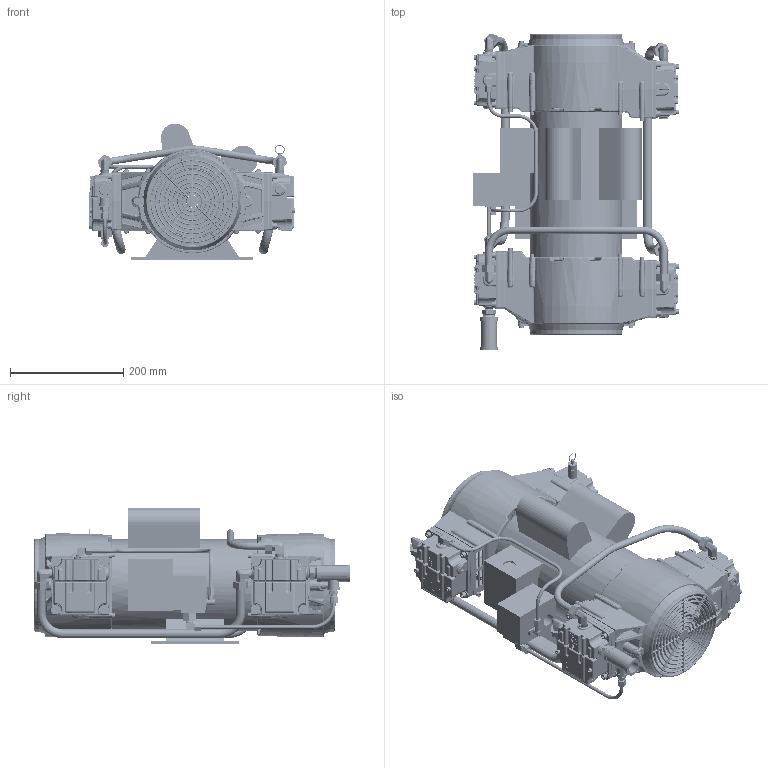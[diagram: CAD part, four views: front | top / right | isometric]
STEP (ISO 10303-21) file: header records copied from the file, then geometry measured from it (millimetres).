
FILE_DESCRIPTION (( 'STEP AP203' ), '1' );
FILE_NAME ('4 Cylinder OL Plus Riser Mount.STEP', '2015-07-08T15:43:12', ( '' ), ( '' ), 'SwSTEP 2.0', 'SolidWorks 2015', '' );
FILE_SCHEMA (( 'CONFIG_CONTROL_DESIGN' ));
Length unit declared in the file: inch
Products named in the file (37): TUBE UNLOADER TO HEAD 3 PH UNIT; TEE .50  X .50 X .25 NPT; C80032 REVISION 9-13-13; WASHER,LOCK, #10; 8-32_25 (PAN); ELBOW 90 DEG .25ML X .25 TUBE; PLUG HEX .38 NPT; Lock Washer; C40002D-HP HEAD ASSEMBLY; INTAKEE VALVE HP; G-212177 1.5 HP1P 60Hz; 4 Cylinder OL Plus Riser Mount; 375-16_1 [socket]; Washer; Head_Machined D; 2 Cylinder w Stock Guard_Machined5; VTRELIEFVA; 25-20_125 [socket]; Oring; Thorgren R4000 Guard; 4 Cylinder OL Plus; Thorgren Rear guard; Head Gasket_Wide; 10-24_05 [socket]; G-212162 SENSING LINE; Thorgren Rear guard 2; 10-24_125 (FLAT); C40007_High Pressure Valve Plate Machined; CHECK VALVE; elbow 90 deg .38 in. ml x .50 in. tube_mir; Filter Cover_Draft; C80065_DISCHARGE VALVE HP; DAP HUBBEL 69JF109991R  .25 FNPT; CONNECTOR BRASS .25 MNPT TO .25 TUBE; C80042 HIGH PRESSURE TUBE DETAIL 1.5 HP FRONT TO BACK; Filter; C80066_VALVE RETAINER
Assembly tree (120 placements, depth 4):
  4 Cylinder OL Plus Riser Mount
    DAP HUBBEL 69JF109991R  .25 FNPT
    TUBE UNLOADER TO HEAD 3 PH UNIT
    ELBOW 90 DEG .25ML X .25 TUBE  x2
    4 Cylinder OL Plus
      G-212177 1.5 HP1P 60Hz
      2 Cylinder w Stock Guard_Machined5  x2
      Thorgren R4000 Guard  x2
      10-24_05 [socket]  x20
      C40002D-HP HEAD ASSEMBLY  x4
        C40007_High Pressure Valve Plate Machined
        C80065_DISCHARGE VALVE HP
        C80066_VALVE RETAINER
        8-32_25 (PAN)
        INTAKEE VALVE HP
        Head_Machined D
        Oring
        Head Gasket_Wide
        10-24_125 (FLAT)
        Filter Cover_Draft
        Filter
        WASHER,LOCK, #10
        10-24_05 [socket]
      Washer  x16
      25-20_125 [socket]  x16
      Thorgren Rear guard  x2
      Thorgren Rear guard 2  x2
      elbow 90 deg .38 in. ml x .50 in. tube_mir  x6
      C80042 HIGH PRESSURE TUBE DETAIL 1.5 HP FRONT TO BACK  x2
      C80032 REVISION 9-13-13
      Lock Washer  x8
      375-16_1 [socket]  x8
      VTRELIEFVA
    G-212162 SENSING LINE
    CHECK VALVE
    CONNECTOR BRASS .25 MNPT TO .25 TUBE
    TEE .50  X .50 X .25 NPT
    PLUG HEX .38 NPT  x3
Bounding box: 363.53 x 559.68 x 241.81 mm (x, y, z)
Volume: 9931543.9 mm3; surface area: 1635559.4 mm2
Topology: 164 solids, 171 shells, 16566 faces, 42199 edges, 26166 vertices
Faces by surface type: plane 6224, cylinder 4650, bspline 2977, cone 1297, torus 1160, sphere 258
Entity records: 214810 total; most frequent: CARTESIAN_POINT 91678, ORIENTED_EDGE 26528, DIRECTION 22007, EDGE_CURVE 13279, AXIS2_PLACEMENT_3D 8185, VERTEX_POINT 8115, VECTOR 5637, LINE 5637
